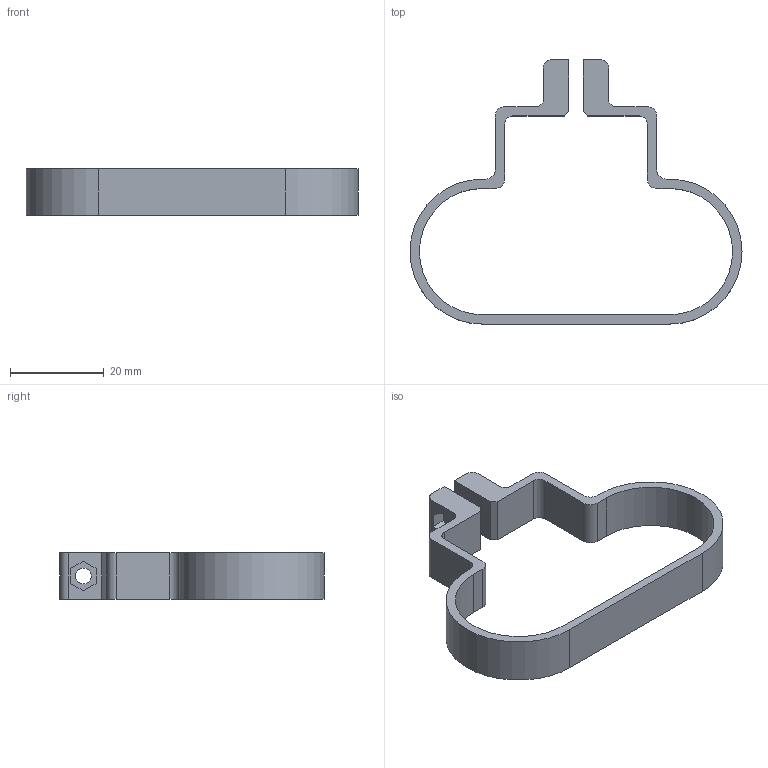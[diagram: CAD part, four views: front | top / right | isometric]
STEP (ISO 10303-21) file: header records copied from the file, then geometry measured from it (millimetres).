
FILE_DESCRIPTION(/* description */ (''),/* implementation_level */ '2;1');
FILE_NAME(/* name */ 'C:\Users\MDPI_MINIV3\Desktop\for 3D prints\Adaline Room\Baby Monitor Mount\Batt cage.stp',/* time_stamp */ '2026-04-12T11:22:48-05:00',/* author */ ('MDPI_MINIV3'),/* organization */ (''),/* preprocessor_version */ 'ST-DEVELOPER v18.1',/* originating_system */ 'Autodesk Inventor 2021',/* authorisation */ '');
FILE_SCHEMA (('AUTOMOTIVE_DESIGN { 1 0 10303 214 3 1 1 }'));
Length unit declared in the file: millimetre
Products named in the file (1): Batt cage
Bounding box: 71 x 56.5 x 10 mm (x, y, z)
Volume: 4841.4 mm3; surface area: 5465.6 mm2
Topology: 1 solids, 1 shells, 51 faces, 144 edges, 96 vertices
Faces by surface type: plane 34, cylinder 17
Full cylindrical faces by diameter (mm): 3.4 x2, 6.5 x1
Entity records: 1703 total; most frequent: CARTESIAN_POINT 292, ORIENTED_EDGE 288, DIRECTION 284, EDGE_CURVE 144, LINE 108, VECTOR 108, VERTEX_POINT 96, AXIS2_PLACEMENT_3D 88
